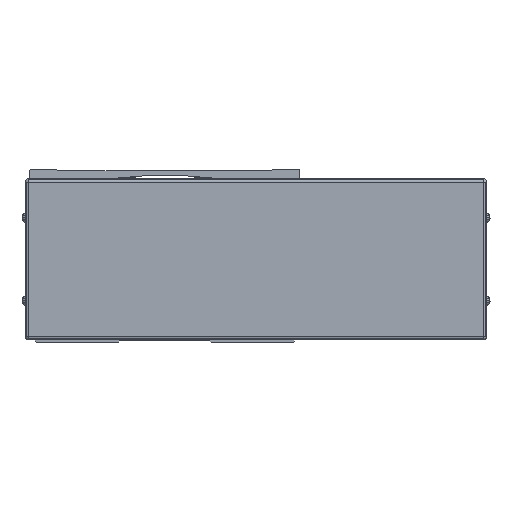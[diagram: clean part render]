
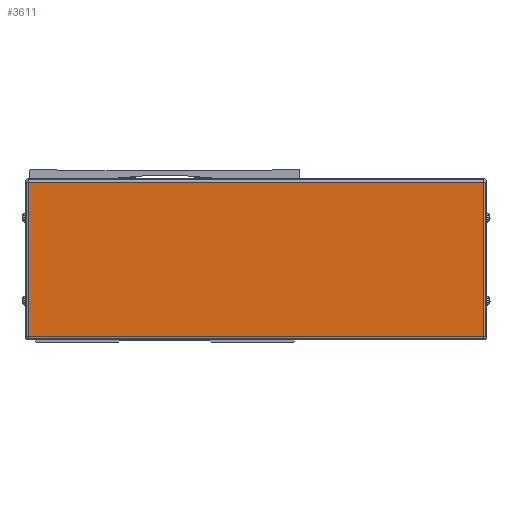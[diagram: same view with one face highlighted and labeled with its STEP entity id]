
A CAD part, front view. The second image highlights one B-rep face of the part: STEP entity #3611.
In plain terms, the highlighted planar face has unit normal (0, -1, 0).
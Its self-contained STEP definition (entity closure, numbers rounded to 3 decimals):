
#3611=ADVANCED_FACE('',(#8498),#8499,.T.);
#8498=FACE_OUTER_BOUND('',#16168,.T.);
#8499=PLANE('',#16169);
#16168=EDGE_LOOP('',(#27313,#27314,#27315,#27316));
#16169=AXIS2_PLACEMENT_3D('',#27317,#27318,#27319);
#27313=ORIENTED_EDGE('',*,*,#39706,.F.);
#27314=ORIENTED_EDGE('',*,*,#43056,.F.);
#27315=ORIENTED_EDGE('',*,*,#43057,.F.);
#27316=ORIENTED_EDGE('',*,*,#42523,.F.);
#27317=CARTESIAN_POINT('',(-545.,77.222,-2.));
#27318=DIRECTION('',(0.,-1.0,0.));
#27319=DIRECTION('',(1.0,0.,0.));
#39706=EDGE_CURVE('',#47163,#47165,#47166,.T.);
#42523=EDGE_CURVE('',#47165,#50808,#51913,.T.);
#43056=EDGE_CURVE('',#52722,#47163,#52723,.T.);
#43057=EDGE_CURVE('',#50808,#52722,#52724,.T.);
#47163=VERTEX_POINT('',#58002);
#47165=VERTEX_POINT('',#58004);
#47166=LINE('',#58005,#58006);
#50808=VERTEX_POINT('',#63456);
#51913=LINE('',#65216,#65217);
#52722=VERTEX_POINT('',#66452);
#52723=LINE('',#66453,#66454);
#52724=LINE('',#66455,#66456);
#58002=CARTESIAN_POINT('',(-682.1,77.222,44.5));
#58004=CARTESIAN_POINT('',(-407.9,77.222,44.5));
#58005=CARTESIAN_POINT('',(-545.,77.222,44.5));
#58006=VECTOR('',#73700,10.0);
#63456=CARTESIAN_POINT('',(-407.9,77.222,-48.5));
#65216=CARTESIAN_POINT('',(-407.9,77.222,-2.));
#65217=VECTOR('',#77191,10.0);
#66452=CARTESIAN_POINT('',(-682.1,77.222,-48.5));
#66453=CARTESIAN_POINT('',(-682.1,77.222,-2.));
#66454=VECTOR('',#77932,10.0);
#66455=CARTESIAN_POINT('',(-545.,77.222,-48.5));
#66456=VECTOR('',#77933,10.0);
#73700=DIRECTION('',(1.0,0.,0.));
#77191=DIRECTION('',(0.,0.,-1.0));
#77932=DIRECTION('',(0.,0.,1.0));
#77933=DIRECTION('',(-1.0,0.,0.));
